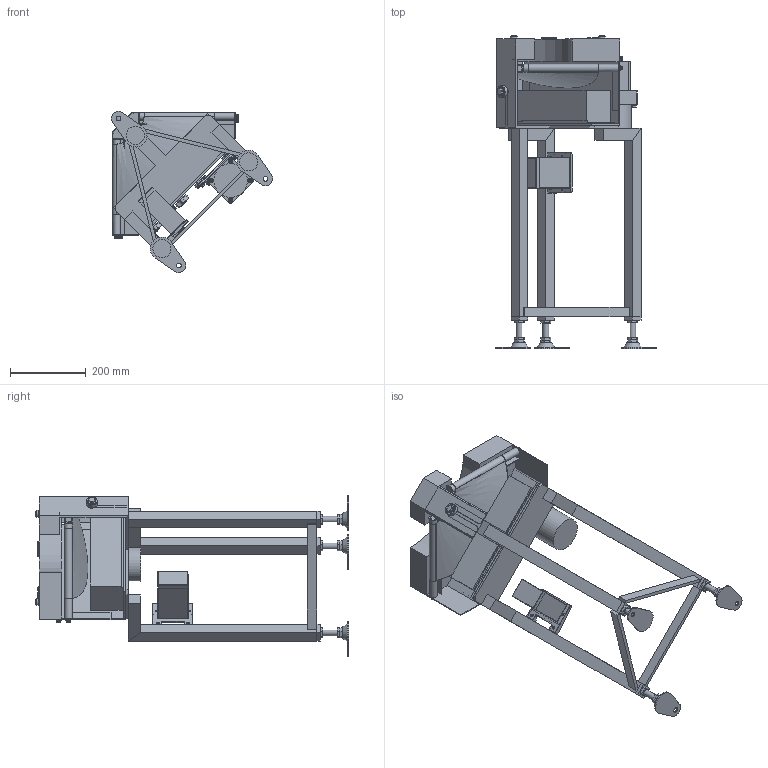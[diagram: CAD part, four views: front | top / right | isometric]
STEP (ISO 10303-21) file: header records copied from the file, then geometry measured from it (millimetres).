
FILE_DESCRIPTION (( 'STEP AP214' ), '1' );
FILE_NAME ('GBC90-HS100-IV-R.STEP', '2023-04-20T01:38:02', ( '' ), ( '' ), 'SwSTEP 2.0', 'SolidWorks 2017', '' );
FILE_SCHEMA (( 'AUTOMOTIVE_DESIGN' ));
Length unit declared in the file: millimetre
Products named in the file (1): GBC90-HS100-IV-R
Bounding box: 426.08 x 827.92 x 426.08 mm (x, y, z)
Volume: 10854973.3 mm3; surface area: 1592880 mm2
Topology: 70 solids, 70 shells, 1195 faces, 2681 edges, 1707 vertices
Faces by surface type: plane 769, cylinder 235, cone 97, bspline 63, torus 22, sphere 9
Full cylindrical faces by diameter (mm): 4.2 x4, 4.5 x2, 5 x4, 5.6 x2, 6 x21, 6.4 x12, 6.5 x8, 7 x3, 8 x3, 9 x2, 9.2 x1, 10 x16, 12 x2, 12.2 x2, 12.5 x15, 13 x7, 15 x4, 16 x10, 17 x1, 18 x2, 18.4 x1, 20 x6, 21 x1, 22.2 x1, 25 x1, 30 x2, 52 x1, 89 x1
Entity records: 53620 total; most frequent: CARTESIAN_POINT 14532, DIRECTION 5036, ORIENTED_EDGE 4820, EDGE_CURVE 2410, AXIS2_PLACEMENT_3D 1779, VERTEX_POINT 1648, EDGE_LOOP 1552, VECTOR 1478
